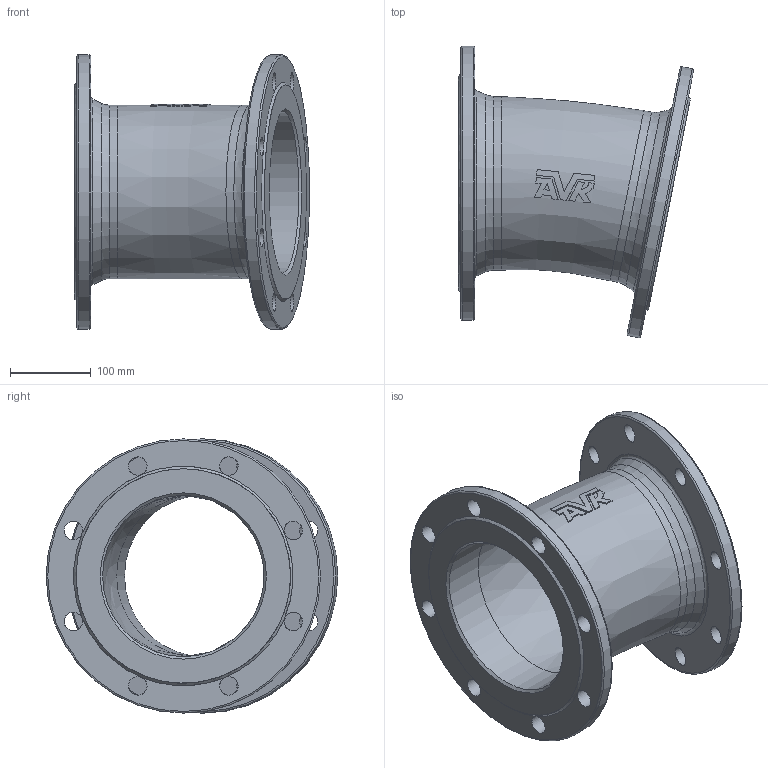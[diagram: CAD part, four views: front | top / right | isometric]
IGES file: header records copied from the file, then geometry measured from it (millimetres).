
Start section: SolidWorks IGES file using analytic representation for surfaces
Global section: file name: \\avksan2\techshare\PBM outline export from Enovia\O_712_0110_DN200_0X_REV01.igs; native system: SolidWorks 2022; preprocessor: SolidWorks 2022; author: pbm; date: 240815.104049; units: millimetre
Bounding box: 291.3 x 361.55 x 340 mm (x, y, z)
Surface area: 574382.1 mm2 (no closed solid volume)
Topology: 0 solids, 0 shells, 85 faces, 433 edges, 379 vertices
Faces by surface type: revolution 44, bspline 41
